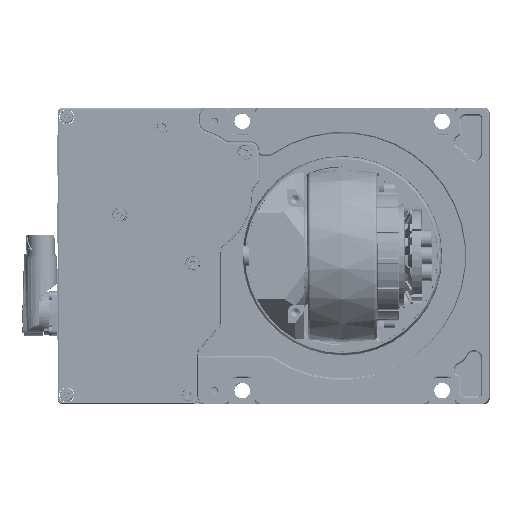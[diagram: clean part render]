
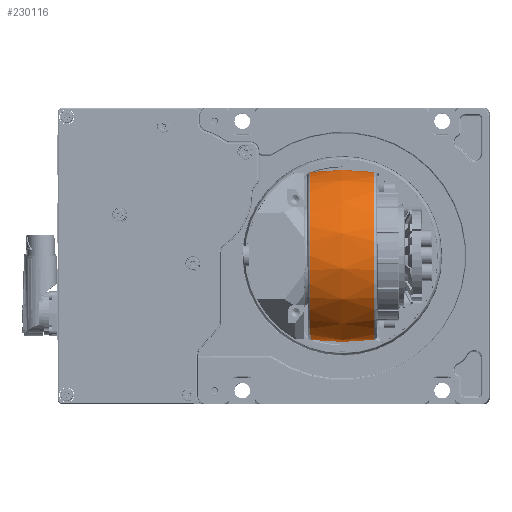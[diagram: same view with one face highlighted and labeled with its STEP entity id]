
A CAD part, top view. The second image highlights one B-rep face of the part: STEP entity #230116.
In plain terms, the highlighted free-form (B-spline) face has degree [2, 2] with [3, 9] control points.
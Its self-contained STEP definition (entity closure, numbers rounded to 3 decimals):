
#501=(
BOUNDED_SURFACE()
B_SPLINE_SURFACE(2,2,((#491468,#491469,#491470,#491471,#491472,#491473,
#491474,#491475,#491476),(#491477,#491478,#491479,#491480,#491481,#491482,
#491483,#491484,#491485),(#491486,#491487,#491488,#491489,#491490,#491491,
#491492,#491493,#491494)),.UNSPECIFIED.,.F.,.T.,.F.)
B_SPLINE_SURFACE_WITH_KNOTS((3,3),(3,2,2,2,3),(-0.185,0.185),
(-3.142,-1.571,0.,1.571,3.142),
 .UNSPECIFIED.)
GEOMETRIC_REPRESENTATION_ITEM()
RATIONAL_B_SPLINE_SURFACE(((1.,0.707,1.,0.707,1.,
0.707,1.,0.707,1.),(0.983,0.695,
0.983,0.695,0.983,0.695,
0.983,0.695,0.983),(1.,0.707,
1.,0.707,1.,0.707,1.,0.707,1.)))
REPRESENTATION_ITEM('')
SURFACE()
);
#17825=FACE_OUTER_BOUND('',#31619,.T.);
#31619=EDGE_LOOP('',(#170923,#170924,#170925,#170926));
#53554=CIRCLE('',#249086,48.299);
#53557=CIRCLE('',#249089,48.299);
#53558=CIRCLE('',#249090,100.);
#96804=VERTEX_POINT('',#491463);
#96806=VERTEX_POINT('',#491495);
#123239=EDGE_CURVE('',#96804,#96804,#53554,.T.);
#123242=EDGE_CURVE('',#96806,#96806,#53557,.T.);
#123243=EDGE_CURVE('',#96806,#96804,#53558,.T.);
#170923=ORIENTED_EDGE('',*,*,#123242,.F.);
#170924=ORIENTED_EDGE('',*,*,#123243,.T.);
#170925=ORIENTED_EDGE('',*,*,#123239,.T.);
#170926=ORIENTED_EDGE('',*,*,#123243,.F.);
#230116=ADVANCED_FACE('',(#17825),#501,.F.);
#249086=AXIS2_PLACEMENT_3D('',#491464,#287516,#287517);
#249089=AXIS2_PLACEMENT_3D('',#491496,#287522,#287523);
#249090=AXIS2_PLACEMENT_3D('',#491497,#287524,#287525);
#287516=DIRECTION('center_axis',(1.,0.002,
0.));
#287517=DIRECTION('ref_axis',(-0.002,0.866,0.5));
#287522=DIRECTION('center_axis',(1.,0.002,
0.));
#287523=DIRECTION('ref_axis',(-0.002,0.866,0.5));
#287524=DIRECTION('center_axis',(-0.001,0.5,
-0.866));
#287525=DIRECTION('ref_axis',(0.002,-0.866,-0.5));
#491463=CARTESIAN_POINT('',(-18.266,-41.872,-0.099));
#491464=CARTESIAN_POINT('Origin',(-18.367,-0.044,
24.05));
#491468=CARTESIAN_POINT('Ctrl Pts',(-18.266,-41.872,
-0.099));
#491469=CARTESIAN_POINT('Ctrl Pts',(-18.325,-17.723,
-41.927));
#491470=CARTESIAN_POINT('Ctrl Pts',(-18.426,24.105,
-17.778));
#491471=CARTESIAN_POINT('Ctrl Pts',(-18.526,65.933,
6.371));
#491472=CARTESIAN_POINT('Ctrl Pts',(-18.468,41.783,
48.199));
#491473=CARTESIAN_POINT('Ctrl Pts',(-18.41,17.634,90.027));
#491474=CARTESIAN_POINT('Ctrl Pts',(-18.309,-24.194,
65.878));
#491475=CARTESIAN_POINT('Ctrl Pts',(-18.208,-66.021,
41.729));
#491476=CARTESIAN_POINT('Ctrl Pts',(-18.266,-41.872,
-0.099));
#491477=CARTESIAN_POINT('Ctrl Pts',(0.108,-44.8,
-1.815));
#491478=CARTESIAN_POINT('Ctrl Pts',(0.046,-18.935,
-46.615));
#491479=CARTESIAN_POINT('Ctrl Pts',(-0.062,25.865,
-20.75));
#491480=CARTESIAN_POINT('Ctrl Pts',(-0.17,70.665,
5.115));
#491481=CARTESIAN_POINT('Ctrl Pts',(-0.108,44.8,
49.915));
#491482=CARTESIAN_POINT('Ctrl Pts',(-0.046,18.935,
94.715));
#491483=CARTESIAN_POINT('Ctrl Pts',(0.062,-25.865,
68.85));
#491484=CARTESIAN_POINT('Ctrl Pts',(0.17,-70.665,
42.985));
#491485=CARTESIAN_POINT('Ctrl Pts',(0.108,-44.8,
-1.815));
#491486=CARTESIAN_POINT('Ctrl Pts',(18.468,-41.783,-0.099));
#491487=CARTESIAN_POINT('Ctrl Pts',(18.41,-17.634,
-41.927));
#491488=CARTESIAN_POINT('Ctrl Pts',(18.309,24.194,-17.778));
#491489=CARTESIAN_POINT('Ctrl Pts',(18.208,66.021,6.371));
#491490=CARTESIAN_POINT('Ctrl Pts',(18.266,41.872,48.199));
#491491=CARTESIAN_POINT('Ctrl Pts',(18.325,17.723,90.027));
#491492=CARTESIAN_POINT('Ctrl Pts',(18.426,-24.105,
65.878));
#491493=CARTESIAN_POINT('Ctrl Pts',(18.526,-65.933,
41.729));
#491494=CARTESIAN_POINT('Ctrl Pts',(18.468,-41.783,-0.099));
#491495=CARTESIAN_POINT('',(18.468,-41.783,-0.099));
#491496=CARTESIAN_POINT('Origin',(18.367,0.044,24.05));
#491497=CARTESIAN_POINT('Origin',(-0.104,43.301,49.05));
